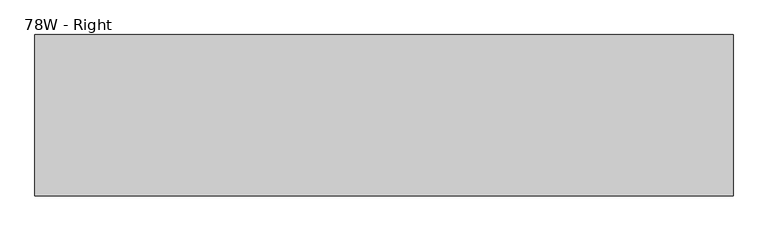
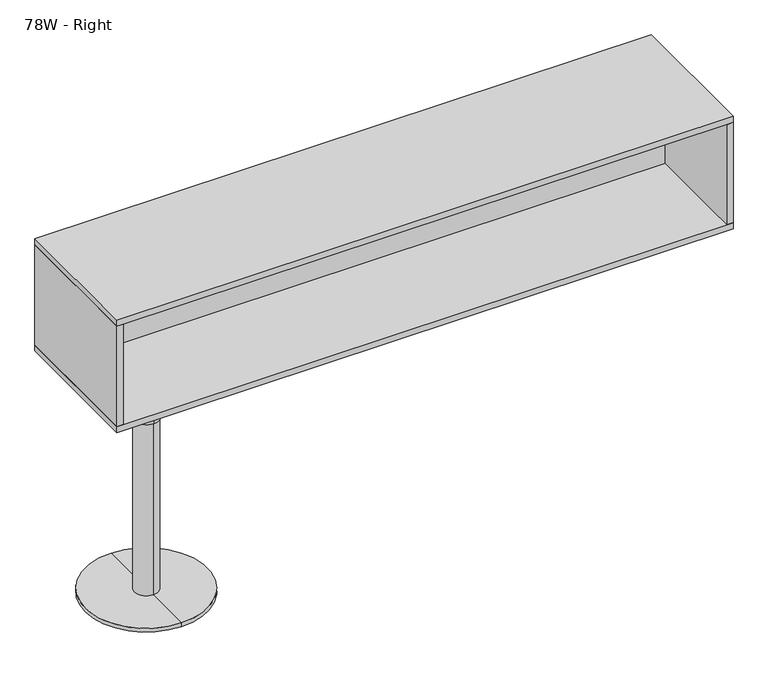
"""IFC4 building model written with IfcOpenShell, lengths in millimetres: furniture geometry, Steelcase - Duo Storage - For Use with Answer Junction - Tall Storage with Leg - Individual : 78W - Right."""

from ifc_helpers import new_model, si_unit, frame, origin, place, context, project, spatial, polyline, circle_curve, outline, extrude, source, transform, mapped, element, save
from ifc_brep_helpers import plane_surface, cylinder_surface, advanced_brep


def furniture_78w_right_f4d60157(model_context):
    return source(origin(), model_context, "Body", "SolidModel", [
        extrude(outline(polyline([(1960.8797287, 115.3159264), (20.32, 115.3159264), (20.32, 137.1599419), (1960.8797287, 137.1599419), (1960.8797287, 115.3159264)])), frame((0.0, 0.0, 779.2719806), z_axis=(0.0, 0.0, 1.0), x_axis=(1.0, 0.0, 0.0)), (0.0, 0.0, 1.0), 340.3600194),
        advanced_brep(
        [(226.0597287, 196.1389534, 0.0), (226.0597287, -196.1389534, 0.0), (226.0597287, -196.1389534, 12.7), (226.0597287, 196.1389534, 12.7), (226.0597287, 0.0, 0.0), (226.0597287, 41.4195882, 758.952), (226.0597287, -41.4195882, 758.952), (226.0597287, 0.0, 758.952), (226.0597287, 41.4195882, 596.9), (226.0597287, -41.4195882, 596.9), (226.0597287, 38.1, 596.9), (226.0597287, -38.1, 596.9), (226.0597287, 38.1, 12.7), (226.0597287, -38.1, 12.7)],
        [
            (0, 1, circle_curve(frame((226.0597287, 0.0, 0.0), z_axis=(0.0, 0.0, 1.0), x_axis=(0.0, -1.0, 0.0)), 196.1389534)),
            (1, 2),
            (2, 3, circle_curve(frame((226.0597287, 0.0, 12.7), z_axis=(0.0, 0.0, -1.0), x_axis=(0.0, -1.0, 0.0)), 196.1389534)),
            (3, 0),
            (1, 0, circle_curve(frame((226.0597287, 0.0, 0.0), z_axis=(0.0, 0.0, 1.0), x_axis=(0.0, -1.0, 0.0)), 196.1389534)),
            (3, 2, circle_curve(frame((226.0597287, 0.0, 12.7), z_axis=(0.0, 0.0, -1.0), x_axis=(0.0, -1.0, 0.0)), 196.1389534)),
            (4, 1),
            (0, 4),
            (5, 6, circle_curve(frame((226.0597287, 0.0, 758.952), z_axis=(0.0, 0.0, 1.0), x_axis=(0.0, -1.0, 0.0)), 41.4195882)),
            (6, 7),
            (7, 5),
            (6, 5, circle_curve(frame((226.0597287, 0.0, 758.952), z_axis=(0.0, 0.0, 1.0), x_axis=(0.0, -1.0, 0.0)), 41.4195882)),
            (8, 9, circle_curve(frame((226.0597287, 0.0, 596.9), z_axis=(0.0, 0.0, 1.0), x_axis=(0.0, -1.0, 0.0)), 41.4195882)),
            (9, 6),
            (5, 8),
            (9, 8, circle_curve(frame((226.0597287, 0.0, 596.9), z_axis=(0.0, 0.0, 1.0), x_axis=(0.0, -1.0, 0.0)), 41.4195882)),
            (10, 11, circle_curve(frame((226.0597287, 0.0, 596.9), z_axis=(0.0, 0.0, 1.0), x_axis=(0.0, -1.0, 0.0)), 38.1)),
            (11, 9),
            (8, 10),
            (11, 10, circle_curve(frame((226.0597287, 0.0, 596.9), z_axis=(0.0, 0.0, 1.0), x_axis=(0.0, -1.0, 0.0)), 38.1)),
            (12, 13, circle_curve(frame((226.0597287, 0.0, 12.7), z_axis=(0.0, 0.0, 1.0), x_axis=(0.0, -1.0, 0.0)), 38.1)),
            (13, 11),
            (10, 12),
            (13, 12, circle_curve(frame((226.0597287, 0.0, 12.7), z_axis=(0.0, 0.0, 1.0), x_axis=(0.0, -1.0, 0.0)), 38.1)),
            (2, 13),
            (12, 3),
        ],
        [
            cylinder_surface(frame((226.0597287, 0.0, 581.025), z_axis=(0.0, 0.0, -1.0), x_axis=(0.0, -1.0, 0.0)), 196.1389534),
            plane_surface(frame((226.0597287, 0.0, 0.0), z_axis=(0.0, 0.0, -1.0), x_axis=(0.0, -1.0, 0.0))),
            plane_surface(frame((226.0597287, 0.0, 758.952), z_axis=(0.0, 0.0, 1.0), x_axis=(0.0, -1.0, 0.0))),
            cylinder_surface(frame((226.0597287, 0.0, 581.025), z_axis=(0.0, 0.0, -1.0), x_axis=(0.0, -1.0, 0.0)), 41.4195882),
            plane_surface(frame((226.0597287, 0.0, 596.9), z_axis=(0.0, 0.0, -1.0), x_axis=(0.0, -1.0, 0.0))),
            cylinder_surface(frame((226.0597287, 0.0, 581.025), z_axis=(0.0, 0.0, -1.0), x_axis=(0.0, -1.0, 0.0)), 38.1),
            plane_surface(frame((226.0597287, 0.0, 12.7), z_axis=(0.0, 0.0, 1.0), x_axis=(0.0, -1.0, 0.0))),
        ],
        [
            (0, [[1, 2, 3, 4]]),
            (0, [[5, -4, 6, -2]]),
            (1, [[7, -1, 8]]),
            (1, [[-8, -5, -7]]),
            (2, [[9, 10, 11]]),
            (2, [[12, -11, -10]]),
            (3, [[13, 14, -9, 15]]),
            (3, [[16, -15, -12, -14]]),
            (4, [[17, 18, -13, 19]]),
            (4, [[20, -19, -16, -18]]),
            (5, [[21, 22, -17, 23]]),
            (5, [[24, -23, -20, -22]]),
            (6, [[-3, 25, -21, 26]]),
            (6, [[-6, -26, -24, -25]]),
        ],
    ),
        extrude(outline(polyline([(1981.2, 228.6), (1981.2, -228.6), (1960.8797287, -228.6), (1960.8797287, 228.6), (1981.2, 228.6)])), frame((0.0, 0.0, 779.2719806), z_axis=(0.0, 0.0, 1.0), x_axis=(1.0, 0.0, 0.0)), (0.0, 0.0, 1.0), 340.3600194),
        extrude(outline(polyline([(20.32, 228.6), (20.32, -228.6), (0.0, -228.6), (0.0, 228.6), (20.32, 228.6)])), frame((0.0, 0.0, 779.2719806), z_axis=(0.0, 0.0, 1.0), x_axis=(1.0, 0.0, 0.0)), (0.0, 0.0, 1.0), 340.3600194),
        extrude(outline(polyline([(1981.2, 228.6), (1981.2, -228.6), (0.0, -228.6), (0.0, 228.6), (1981.2, 228.6)])), frame((0.0, 0.0, 1119.632), z_axis=(0.0, 0.0, 1.0), x_axis=(1.0, 0.0, 0.0)), (0.0, 0.0, 1.0), 20.32),
        extrude(outline(polyline([(1981.2, 228.6), (1981.2, -228.6), (0.0, -228.6), (0.0, 228.6), (1981.2, 228.6)])), frame((0.0, 0.0, 758.952), z_axis=(0.0, 0.0, 1.0), x_axis=(1.0, 0.0, 0.0)), (0.0, 0.0, 1.0), 20.3199806),
    ])


if __name__ == "__main__":
    model = new_model("IFC4")
    model_context = context("Model", 3, world=origin())
    ifc_project = project(units=[si_unit("LENGTHUNIT", "METRE", prefix="MILLI")], contexts=[model_context])
    site = spatial("IfcSite", under=ifc_project)
    building = spatial("IfcBuilding", under=site)
    placement = place(None, origin())
    furniture_78w_right_shape = furniture_78w_right_f4d60157(model_context)
    element("IfcFurniture", 1, ObjectType="Steelcase - Duo Storage - For Use with Answer Junction - Tall Storage with Leg - Individual : 78W - Right", at=placement, inside=building, context=model_context, shape_type="MappedRepresentation", body=[
        mapped(furniture_78w_right_shape, transform((0.0, 0.0, 0.0), x_axis=(1.0, 0.0, 0.0), y_axis=(0.0, 1.0, 0.0), z_axis=(0.0, 0.0, 1.0))),
    ])
    save(model, "model.ifc")
